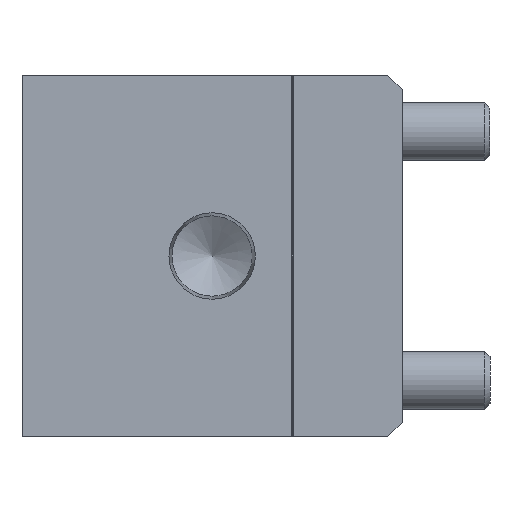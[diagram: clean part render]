
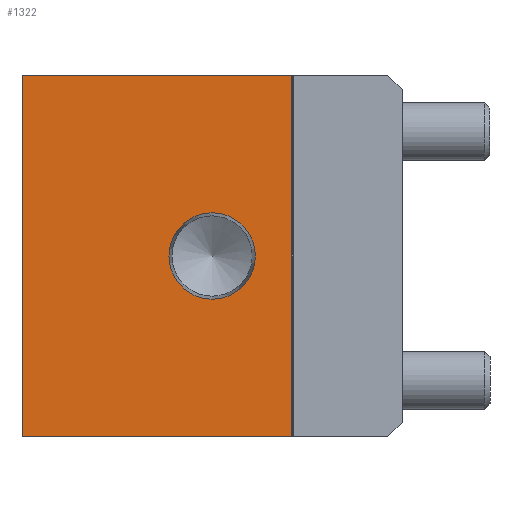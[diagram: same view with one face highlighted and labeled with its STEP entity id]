
A CAD part, left-side view. The second image highlights one B-rep face of the part: STEP entity #1322.
In plain terms, the highlighted planar face has unit normal (-1, 0, 0).
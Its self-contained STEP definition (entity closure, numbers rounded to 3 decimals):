
#1322 = ADVANCED_FACE( '', ( #2992, #2993 ), #2994, .F. );
#2992 = FACE_BOUND( '', #5059, .T. );
#2993 = FACE_OUTER_BOUND( '', #5060, .T. );
#2994 = PLANE( '', #5061 );
#5059 = EDGE_LOOP( '', ( #8225 ) );
#5060 = EDGE_LOOP( '', ( #8226, #8227, #8228, #8229 ) );
#5061 = AXIS2_PLACEMENT_3D( '', #8230, #8231, #8232 );
#8225 = ORIENTED_EDGE( '', *, *, #11804, .T. );
#8226 = ORIENTED_EDGE( '', *, *, #11420, .F. );
#8227 = ORIENTED_EDGE( '', *, *, #11474, .F. );
#8228 = ORIENTED_EDGE( '', *, *, #11272, .T. );
#8229 = ORIENTED_EDGE( '', *, *, #11744, .T. );
#8230 = CARTESIAN_POINT( '', ( 0., 52., 24.75 ) );
#8231 = DIRECTION( '', ( 1., 0., 0. ) );
#8232 = DIRECTION( '', ( 0., 0., -1. ) );
#11272 = EDGE_CURVE( '', #13315, #13313, #13316, .T. );
#11420 = EDGE_CURVE( '', #13551, #13553, #13554, .T. );
#11474 = EDGE_CURVE( '', #13315, #13551, #13633, .T. );
#11744 = EDGE_CURVE( '', #13313, #13553, #14028, .T. );
#11804 = EDGE_CURVE( '', #14115, #14115, #14116, .T. );
#13313 = VERTEX_POINT( '', #15961 );
#13315 = VERTEX_POINT( '', #15964 );
#13316 = LINE( '', #15965, #15966 );
#13551 = VERTEX_POINT( '', #16281 );
#13553 = VERTEX_POINT( '', #16284 );
#13554 = LINE( '', #16285, #16286 );
#13633 = LINE( '', #16386, #16387 );
#14028 = LINE( '', #16906, #16907 );
#14115 = VERTEX_POINT( '', #17019 );
#14116 = CIRCLE( '', #17020, 5.91 );
#15961 = CARTESIAN_POINT( '', ( 0., 52., -24.75 ) );
#15964 = CARTESIAN_POINT( '', ( 0., 52., 24.75 ) );
#15965 = CARTESIAN_POINT( '', ( 0., 52., 24.75 ) );
#15966 = VECTOR( '', #18829, 1000. );
#16281 = CARTESIAN_POINT( '', ( 0., 15.1, 24.75 ) );
#16284 = CARTESIAN_POINT( '', ( 0., 15.1, -24.75 ) );
#16285 = CARTESIAN_POINT( '', ( 0., 15.1, 24.75 ) );
#16286 = VECTOR( '', #19001, 1000. );
#16386 = CARTESIAN_POINT( '', ( 0., 52., 24.75 ) );
#16387 = VECTOR( '', #19071, 1000. );
#16906 = CARTESIAN_POINT( '', ( 0., 52., -24.75 ) );
#16907 = VECTOR( '', #19391, 1000. );
#17019 = CARTESIAN_POINT( '', ( 0., 26., -5.91 ) );
#17020 = AXIS2_PLACEMENT_3D( '', #19462, #19463, #19464 );
#18829 = DIRECTION( '', ( 0., 0., -1. ) );
#19001 = DIRECTION( '', ( 0., 0., -1. ) );
#19071 = DIRECTION( '', ( 0., -1., 0. ) );
#19391 = DIRECTION( '', ( 0., -1., 0. ) );
#19462 = CARTESIAN_POINT( '', ( 0., 26., 0. ) );
#19463 = DIRECTION( '', ( 1., 0., 0. ) );
#19464 = DIRECTION( '', ( 0., 0., -1. ) );
